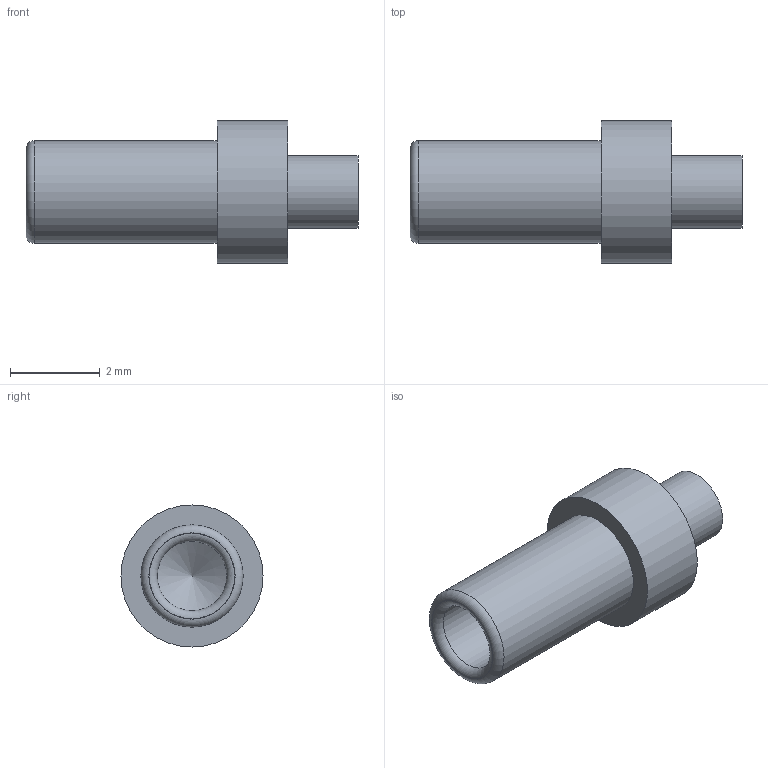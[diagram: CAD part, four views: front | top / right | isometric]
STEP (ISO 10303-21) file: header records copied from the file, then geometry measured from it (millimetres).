
FILE_DESCRIPTION(/* description */ (''),/* implementation_level */ '2;1');
FILE_NAME(/* name */ '\\Snap1\dwgs\Customer 3D Models\450\450-3756-01 Customer model.stp',/* time_stamp */ '2016-12-20T17:23:47+00:00',/* author */ ('paulk'),/* organization */ (''),/* preprocessor_version */ 'ST-DEVELOPER v15.2',/* originating_system */ 'Autodesk Inventor 2014',/* authorisation */ '');
FILE_SCHEMA (('CONFIG_CONTROL_DESIGN'));
Length unit declared in the file: millimetre
Products named in the file (1): 450-3756-01 Customer model
Bounding box: 7.42 x 3.17 x 3.17 mm (x, y, z)
Volume: 22.9 mm3; surface area: 96.1 mm2
Topology: 1 solids, 1 shells, 13 faces, 23 edges, 14 vertices
Faces by surface type: cylinder 5, plane 4, torus 2, cone 2
Full cylindrical faces by diameter (mm): 1.092 x1, 1.55 x1, 1.62 x1, 2.286 x1, 3.175 x1
Entity records: 275 total; most frequent: DIRECTION 52, CARTESIAN_POINT 38, AXIS2_PLACEMENT_3D 26, EDGE_LOOP 24, ORIENTED_EDGE 24, FACE_BOUND 13, ADVANCED_FACE 13, CIRCLE 12
